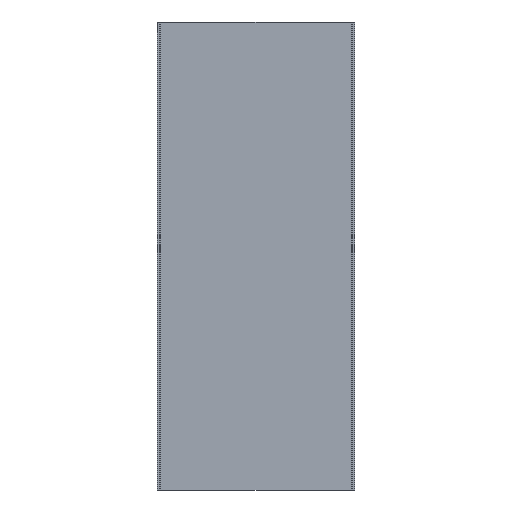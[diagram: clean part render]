
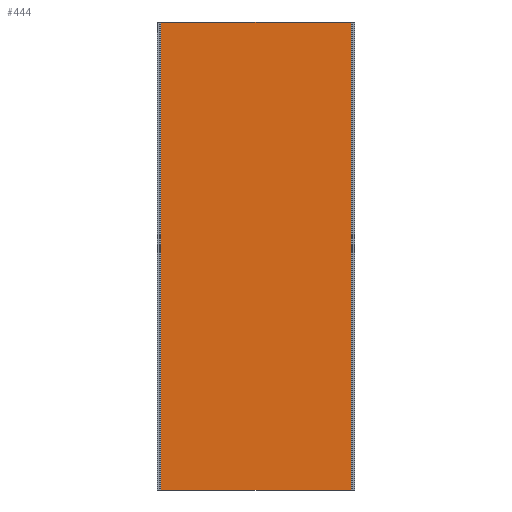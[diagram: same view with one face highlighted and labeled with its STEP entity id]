
A CAD part, front view. The second image highlights one B-rep face of the part: STEP entity #444.
In plain terms, the highlighted planar face has unit normal (0, -1, 0).
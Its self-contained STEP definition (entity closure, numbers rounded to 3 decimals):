
#31 = DIRECTION ( 'NONE',  ( 0., 0., -1. ) ) ;
#60 = DIRECTION ( 'NONE',  ( -1., 0., 0. ) ) ;
#73 = VERTEX_POINT ( 'NONE', #241 ) ;
#76 = DIRECTION ( 'NONE',  ( 0., 0., -1. ) ) ;
#133 = ORIENTED_EDGE ( 'NONE', *, *, #443, .F. ) ;
#155 = ORIENTED_EDGE ( 'NONE', *, *, #895, .F. ) ;
#223 = DIRECTION ( 'NONE',  ( 1., 0., 0. ) ) ;
#241 = CARTESIAN_POINT ( 'NONE',  ( 203.2, -68.25, -500. ) ) ;
#243 = ORIENTED_EDGE ( 'NONE', *, *, #994, .T. ) ;
#253 = LINE ( 'NONE', #577, #574 ) ;
#443 = EDGE_CURVE ( 'NONE', #1146, #73, #513, .T. ) ;
#444 = ADVANCED_FACE ( 'NONE', ( #1041 ), #1262, .F. ) ;
#461 = LINE ( 'NONE', #1002, #661 ) ;
#513 = LINE ( 'NONE', #1238, #1151 ) ;
#519 = AXIS2_PLACEMENT_3D ( 'NONE', #1149, #843, #60 ) ;
#574 = VECTOR ( 'NONE', #76, 1000. ) ;
#577 = CARTESIAN_POINT ( 'NONE',  ( -203.2, -68.25, 500. ) ) ;
#602 = LINE ( 'NONE', #1210, #1026 ) ;
#661 = VECTOR ( 'NONE', #223, 1000. ) ;
#758 = CARTESIAN_POINT ( 'NONE',  ( 203.2, -68.25, 500. ) ) ;
#805 = VERTEX_POINT ( 'NONE', #1085 ) ;
#843 = DIRECTION ( 'NONE',  ( 0., 1., 0. ) ) ;
#876 = VERTEX_POINT ( 'NONE', #1011 ) ;
#895 = EDGE_CURVE ( 'NONE', #876, #1146, #602, .T. ) ;
#914 = DIRECTION ( 'NONE',  ( 1., 0., 0. ) ) ;
#951 = EDGE_LOOP ( 'NONE', ( #243, #133, #155, #987 ) ) ;
#987 = ORIENTED_EDGE ( 'NONE', *, *, #1163, .T. ) ;
#994 = EDGE_CURVE ( 'NONE', #805, #73, #461, .T. ) ;
#1002 = CARTESIAN_POINT ( 'NONE',  ( -203.2, -68.25, -500. ) ) ;
#1011 = CARTESIAN_POINT ( 'NONE',  ( -203.2, -68.25, 500. ) ) ;
#1026 = VECTOR ( 'NONE', #914, 1000. ) ;
#1041 = FACE_OUTER_BOUND ( 'NONE', #951, .T. ) ;
#1085 = CARTESIAN_POINT ( 'NONE',  ( -203.2, -68.25, -500. ) ) ;
#1146 = VERTEX_POINT ( 'NONE', #758 ) ;
#1149 = CARTESIAN_POINT ( 'NONE',  ( -203.2, -68.25, 500. ) ) ;
#1151 = VECTOR ( 'NONE', #31, 1000. ) ;
#1163 = EDGE_CURVE ( 'NONE', #876, #805, #253, .T. ) ;
#1210 = CARTESIAN_POINT ( 'NONE',  ( -203.2, -68.25, 500. ) ) ;
#1238 = CARTESIAN_POINT ( 'NONE',  ( 203.2, -68.25, 500. ) ) ;
#1262 = PLANE ( 'NONE',  #519 ) ;
